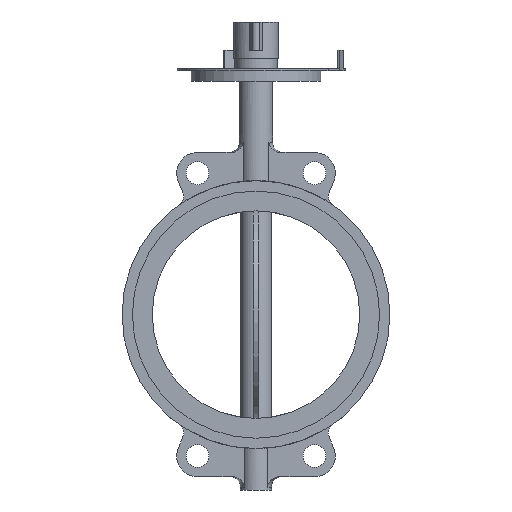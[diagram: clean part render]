
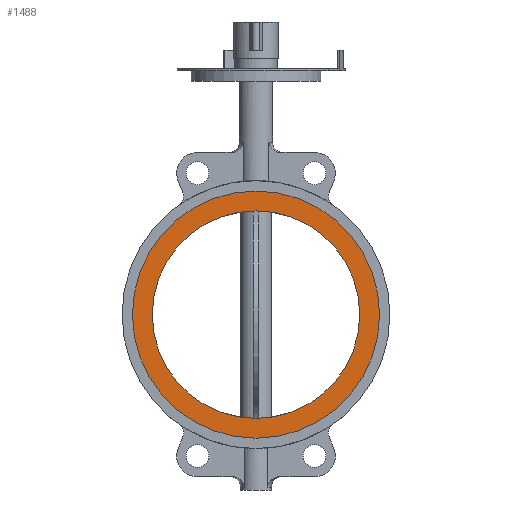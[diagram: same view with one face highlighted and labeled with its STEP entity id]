
A CAD part, left-side view. The second image highlights one B-rep face of the part: STEP entity #1488.
In plain terms, the highlighted planar face has unit normal (-1, 0, 0).
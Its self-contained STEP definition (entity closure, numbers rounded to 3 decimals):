
#1488=ADVANCED_FACE('',(#3021,#3023),#3025,.F.);
#3021=FACE_BOUND('',#3022,.T.);
#3022=EDGE_LOOP('',(#4146));
#3023=FACE_BOUND('',#3024,.T.);
#3024=EDGE_LOOP('',(#4147));
#3025=PLANE('',#3026);
#3026=AXIS2_PLACEMENT_3D('',#3027,#3028,#3029);
#3027=CARTESIAN_POINT('',(-30.,0.,0.));
#3028=DIRECTION('',(1.,0.,0.));
#3029=DIRECTION('',(0.,1.,0.));
#4146=ORIENTED_EDGE('',*,*,#4721,.T.);
#4147=ORIENTED_EDGE('',*,*,#4776,.T.);
#4721=EDGE_CURVE('',#5520,#5520,#5521,.F.);
#4776=EDGE_CURVE('',#5604,#5604,#5605,.T.);
#5520=VERTEX_POINT('',#8192);
#5521=CIRCLE('',#8193,119.1);
#5604=VERTEX_POINT('',#8399);
#5605=CIRCLE('',#8400,100.);
#8192=CARTESIAN_POINT('',(-30.,119.1,0.));
#8193=AXIS2_PLACEMENT_3D('',#8194,#8195,#8196);
#8194=CARTESIAN_POINT('',(-30.,0.,0.));
#8195=DIRECTION('',(1.,0.,0.));
#8196=DIRECTION('',(0.,1.,0.));
#8399=CARTESIAN_POINT('',(-30.,100.,0.));
#8400=AXIS2_PLACEMENT_3D('',#8401,#8402,#8403);
#8401=CARTESIAN_POINT('',(-30.,0.,0.));
#8402=DIRECTION('',(1.,0.,0.));
#8403=DIRECTION('',(0.,1.,0.));
